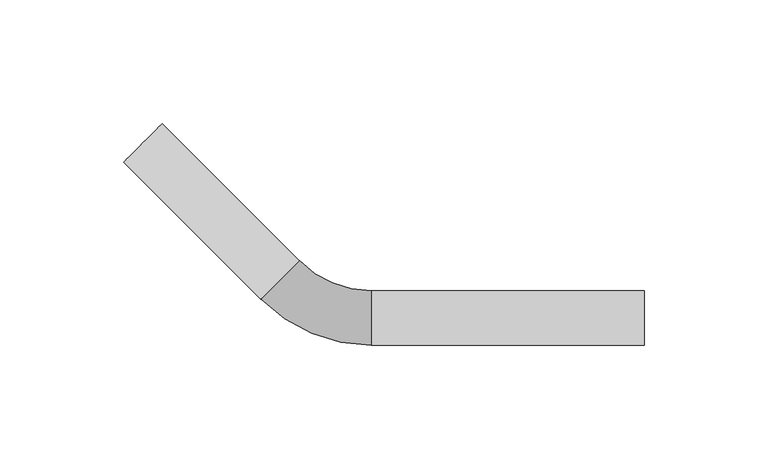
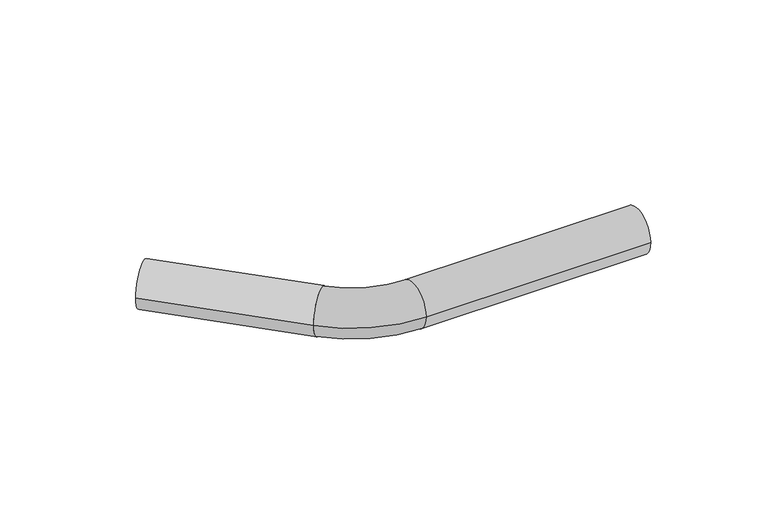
"""IFC4 building model written with IfcOpenShell, lengths in millimetres: pipe fitting geometry, VALTEC_VTi.955.I_Отвод безраструбный_нержавеющая : VTi.955.I."""

from ifc_helpers import new_model, si_unit, point, frame, origin, origin_2d, place, context, project, spatial, circle_curve, ellipse_curve, trimmed, segment, composite_curve, outline, extrude, source, transform, mapped, element, save
from ifc_brep_helpers import plane_surface, revolved_surface, advanced_brep


def pipe_fitting_a7153de2(model_context):
    return source(origin(), model_context, "Body", "SolidModel", [
        advanced_brep(
        [(21.6, -11.0, 0.0), (21.6, 11.0, 0.0), (-22.9477272, 7.4522728, 0.0), (-7.391378, 23.008622, 0.0)],
        [
            (0, 1, circle_curve(frame((21.6, 0.0, 0.0), z_axis=(1.0, 0.0, 0.0), x_axis=(0.0, 1.0, 0.0)), 11.0)),
            (1, 0, circle_curve(frame((21.6, 0.0, 0.0), z_axis=(1.0, 0.0, 0.0), x_axis=(0.0, 1.0, 0.0)), 11.0)),
            (2, 3, circle_curve(frame((-15.1695526, 15.2304474, 0.0), z_axis=(-0.7071067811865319, 0.7071067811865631, 0.0), x_axis=(0.7071067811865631, 0.7071067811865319, 0.0)), 11.0)),
            (3, 2, circle_curve(frame((-15.1695526, 15.2304474, 0.0), z_axis=(-0.7071067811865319, 0.7071067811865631, 0.0), x_axis=(0.7071067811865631, 0.7071067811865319, 0.0)), 11.0)),
            (2, 0, circle_curve(frame((21.6, 52.0, 0.0), z_axis=(0.0, 0.0, 1.0), x_axis=(0.0, -1.0, 0.0)), 63.0)),
            (1, 3, circle_curve(frame((21.6, 52.0, 0.0), z_axis=(0.0, 0.0, -1.0), x_axis=(0.0, -1.0, 0.0)), 41.0)),
        ],
        [
            plane_surface(frame((21.6, 0.0, 0.0), z_axis=(1.0, 0.0, 0.0), x_axis=(0.0, 0.0, 1.0))),
            plane_surface(frame((-15.1695526, 15.2304474, 0.0), z_axis=(-0.7071067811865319, 0.7071067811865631, 0.0), x_axis=(0.0, 0.0, 1.0))),
            revolved_surface(trimmed(ellipse_curve(frame((21.6, 0.0, 0.0), z_axis=(-1.0, 0.0, 0.0), x_axis=(0.0, 1.0, 0.0)), 11.0, 11.0), [point((21.6, -11.0, 0.0))], [point((21.6, 11.0, 0.0))], True, "CARTESIAN"), (21.6, 52.0, 0.0), (0.0, 0.0, 1.0)),
            revolved_surface(trimmed(ellipse_curve(frame((21.6, 0.0, 0.0), z_axis=(-1.0, 0.0, 0.0), x_axis=(0.0, 1.0, 0.0)), 11.0, 11.0), [point((21.6, 11.0, 0.0))], [point((21.6, -11.0, 0.0))], True, "CARTESIAN"), (21.6, 52.0, 0.0), (0.0, 0.0, 1.0)),
        ],
        [
            (0, [[1, 2]]),
            (1, [[3, 4]]),
            (2, [[-3, 5, -2, 6]]),
            (3, [[-4, -6, -1, -5]]),
        ],
    ),
        extrude(outline(composite_curve([segment(trimmed(circle_curve(origin_2d(), 11.0), [point((0.0, 11.0))], [point((0.0, -11.0))], False, "CARTESIAN"), True, "CONTINUOUS"), segment(trimmed(circle_curve(origin_2d(), 11.0), [point((0.0, -11.0))], [point((0.0, 11.0))], False, "CARTESIAN"), True, "CONTINUOUS")], self_intersect=False)), frame((-15.2027958, 15.2027958, 0.0), z_axis=(-0.707106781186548, 0.707106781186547, 0.0), x_axis=(0.0, 0.0, 1.0)), (0.0, 0.0, 1.0), 78.5),
        extrude(outline(composite_curve([segment(trimmed(circle_curve(origin_2d(), 11.0), [point((11.0, 0.0))], [point((-11.0, 0.0))], False, "CARTESIAN"), True, "CONTINUOUS"), segment(trimmed(circle_curve(origin_2d(), 11.0), [point((-11.0, 0.0))], [point((11.0, 0.0))], False, "CARTESIAN"), True, "CONTINUOUS")], self_intersect=False)), frame((21.6, 0.0, 0.0), z_axis=(1.0, 0.0, 0.0), x_axis=(0.0, 1.0, 0.0)), (0.0, 0.0, 1.0), 110.4),
    ])


if __name__ == "__main__":
    model = new_model("IFC4")
    model_context = context("Model", 3, world=origin())
    ifc_project = project(units=[si_unit("LENGTHUNIT", "METRE", prefix="MILLI")], contexts=[model_context])
    site = spatial("IfcSite", under=ifc_project)
    building = spatial("IfcBuilding", under=site)
    placement = place(None, origin())
    pipe_fitting_shape = pipe_fitting_a7153de2(model_context)
    element("IfcPipeFitting", 1, ObjectType="VALTEC_VTi.955.I_Отвод безраструбный_нержавеющая : VTi.955.I", at=placement, inside=building, context=model_context, shape_type="MappedRepresentation", body=[
        mapped(pipe_fitting_shape, transform((0.0, 0.0, 0.0), x_axis=(1.0, 0.0, 0.0), y_axis=(0.0, 1.0, 0.0), z_axis=(0.0, 0.0, 1.0))),
    ])
    save(model, "model.ifc")
